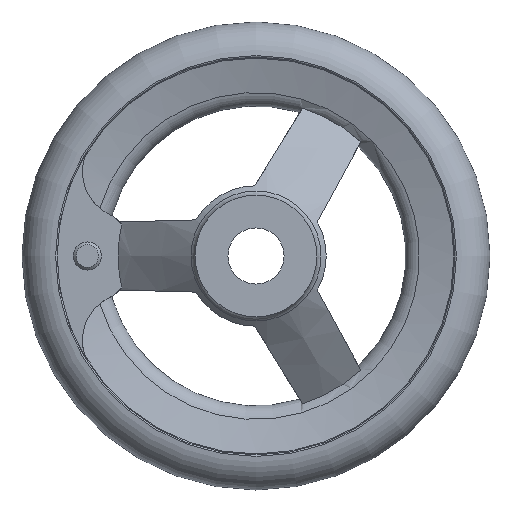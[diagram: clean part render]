
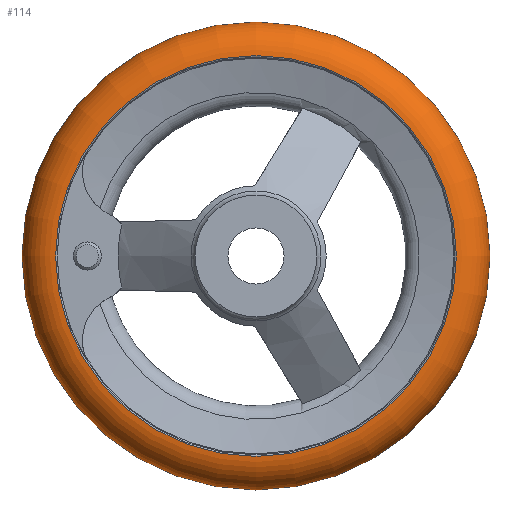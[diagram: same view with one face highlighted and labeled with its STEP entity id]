
A CAD part, left-side view. The second image highlights one B-rep face of the part: STEP entity #114.
In plain terms, the highlighted toroidal (fillet/blend) face has major radius 42.493 mm and minor radius 7.507 mm.
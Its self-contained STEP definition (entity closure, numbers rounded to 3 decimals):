
#114 = ADVANCED_FACE( '', ( #221, #222, #223 ), #224, .T. );
#221 = FACE_BOUND( '', #370, .T. );
#222 = FACE_OUTER_BOUND( '', #371, .T. );
#223 = FACE_OUTER_BOUND( '', #372, .T. );
#224 = TOROIDAL_SURFACE( '', #373, 42.493, 7.507 );
#370 = VERTEX_LOOP( '', #677 );
#371 = EDGE_LOOP( '', ( #678 ) );
#372 = EDGE_LOOP( '', ( #679 ) );
#373 = AXIS2_PLACEMENT_3D( '', #680, #681, #682 );
#677 = VERTEX_POINT( '', #802 );
#678 = ORIENTED_EDGE( '', *, *, #803, .T. );
#679 = ORIENTED_EDGE( '', *, *, #770, .F. );
#680 = CARTESIAN_POINT( '', ( 25.5, 0., 0. ) );
#681 = DIRECTION( '', ( 1., 0., 0. ) );
#682 = DIRECTION( '', ( 0., 1., 0. ) );
#770 = EDGE_CURVE( '', #921, #921, #922, .T. );
#802 = CARTESIAN_POINT( '', ( 25.5, 50., 0. ) );
#803 = EDGE_CURVE( '', #968, #968, #969, .T. );
#921 = VERTEX_POINT( '', #1389 );
#922 = CIRCLE( '', #1390, 42.813 );
#968 = VERTEX_POINT( '', #1500 );
#969 = CIRCLE( '', #1501, 42.813 );
#1389 = CARTESIAN_POINT( '', ( 33., 42.813, 0. ) );
#1390 = AXIS2_PLACEMENT_3D( '', #1586, #1587, #1588 );
#1500 = CARTESIAN_POINT( '', ( 18., 42.813, 0. ) );
#1501 = AXIS2_PLACEMENT_3D( '', #1651, #1652, #1653 );
#1586 = CARTESIAN_POINT( '', ( 33., 0., 0. ) );
#1587 = DIRECTION( '', ( 1., 0., 0. ) );
#1588 = DIRECTION( '', ( 0., 1., 0. ) );
#1651 = CARTESIAN_POINT( '', ( 18., 0., 0. ) );
#1652 = DIRECTION( '', ( 1., 0., 0. ) );
#1653 = DIRECTION( '', ( 0., 1., 0. ) );
